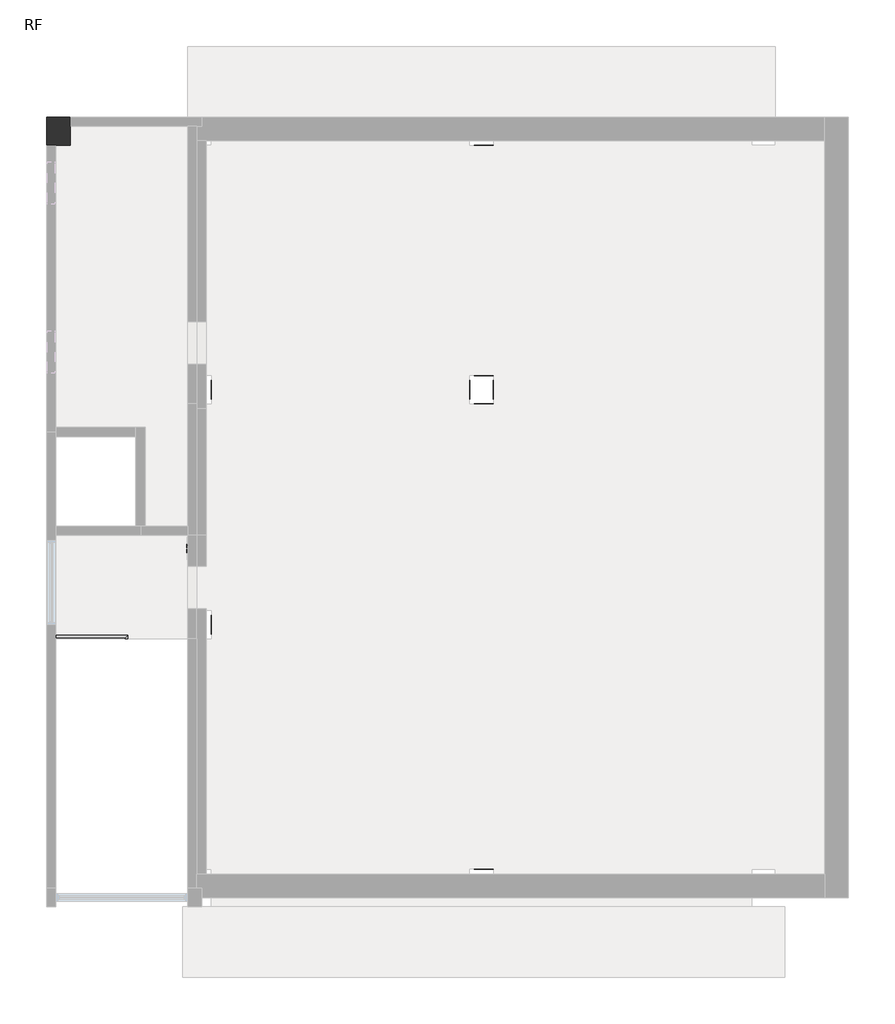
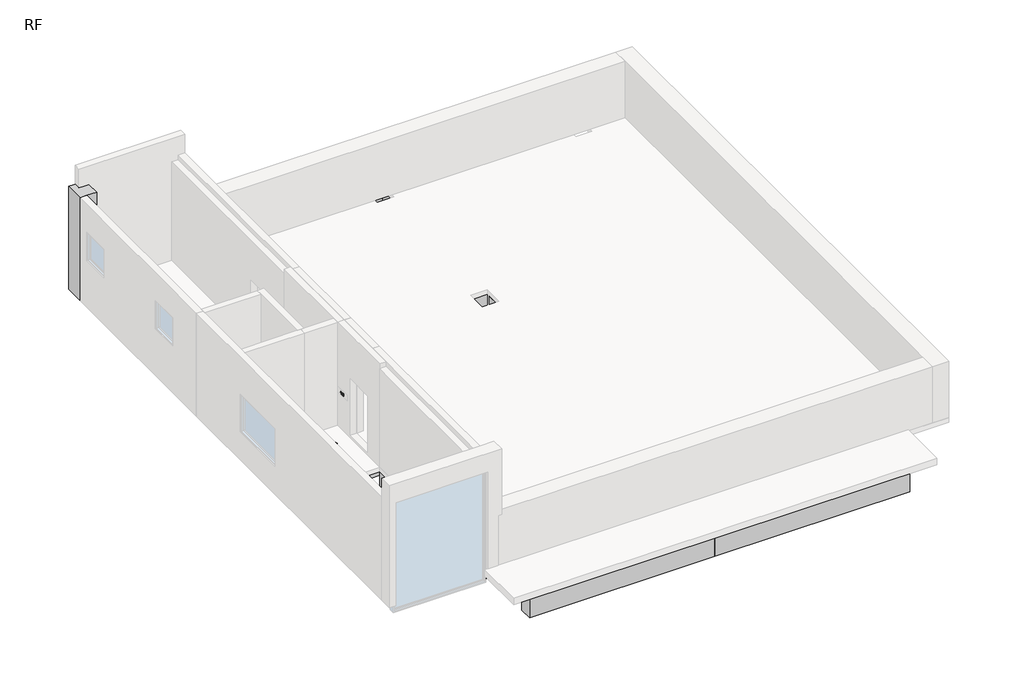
# One storey, part 2 of 2: 31 beams, 1 column, 1 proxy, 1 railing.
"""IFC4 building model written with IfcOpenShell, lengths in millimetres."""

from ifc_helpers import new_model, si_unit, frame, origin, place, context, project, spatial, polyline, outline, extrude, faceted_brep, transform, mapped, element, save
from components import railing_67a96d7a

model = new_model("IFC4")

# Units and contexts
model_context = context("Model", 3, world=origin())
ifc_project = project(units=[si_unit("LENGTHUNIT", "METRE", prefix="MILLI")], contexts=[model_context])

# Site, building, storey
site = spatial("IfcSite", under=ifc_project)
building = spatial("IfcBuilding", under=site)
storey = spatial("IfcBuildingStorey", under=building, Name="RF", Elevation=18600.0)

# Beams
placement = place(None, origin())
element("IfcBeam", 1, ObjectType="BM100-구조 보 : BM100-구조 보 400x600", at=placement, inside=storey, context=model_context, shape_type="Brep", body=[
    faceted_brep([(3250.0, 100.0, 18450.0), (3250.0, -300.0, 18450.0), (8750.0, -300.0, 18450.0), (8750.0, 100.0, 18450.0), (5963.2625647, 100.0, 18450.0), (5663.2625647, 100.0, 18450.0), (3250.0, -300.0, 17850.0), (8750.0, -300.0, 17850.0), (3250.0, 100.0, 17850.0), (5663.2625647, 100.0, 17850.0), (5963.2625647, 100.0, 17850.0), (8750.0, 100.0, 17850.0)], [[[0, 1, 2, 3, 4, 5]], [[1, 6, 7, 2]], [[6, 8, 9, 10, 11, 7]], [[8, 0, 5, 4, 3, 11, 10, 9]], [[0, 8, 6, 1]], [[3, 2, 7, 11]]]),
])
element("IfcBeam", 2, ObjectType="BM100-구조 보 : BM100-구조 보 400x600", at=placement, inside=storey, context=model_context, shape_type="Brep", body=[
    faceted_brep([(14750.0, -300.0, 18450.0), (14750.0, 100.0, 18450.0), (11963.2625647, 100.0, 18450.0), (11663.2625647, 100.0, 18450.0), (9250.0, 100.0, 18450.0), (9250.0, -300.0, 18450.0), (14750.0, -300.0, 17850.0), (9250.0, -300.0, 17850.0), (14750.0, 100.0, 17850.0), (9250.0, 100.0, 17850.0), (11663.2625647, 100.0, 17850.0), (11963.2625647, 100.0, 17850.0)], [[[0, 1, 2, 3, 4, 5]], [[6, 0, 5, 7]], [[8, 6, 7, 9, 10, 11]], [[1, 8, 11, 10, 9, 4, 3, 2]], [[1, 0, 6, 8]], [[5, 4, 9, 7]]]),
])
element("IfcBeam", 3, ObjectType="BM100-구조 보 : BM100-구조 보 400x600", at=placement, inside=storey, context=model_context, shape_type="Brep", body=[
    faceted_brep([(14750.0, 5300.0, 18450.0), (14750.0, 5700.0, 18450.0), (11963.2625647, 5700.0, 18450.0), (11663.2625647, 5700.0, 18450.0), (9250.0, 5700.0, 18450.0), (9250.0, 5300.0, 18450.0), (11663.2625647, 5300.0, 18450.0), (11963.2625647, 5300.0, 18450.0), (14750.0, 5300.0, 17850.0), (9250.0, 5300.0, 17850.0), (11663.2625647, 5300.0, 17850.0), (11963.2625647, 5300.0, 17850.0), (14750.0, 5700.0, 17850.0), (9250.0, 5700.0, 17850.0), (11663.2625647, 5700.0, 17850.0), (11963.2625647, 5700.0, 17850.0)], [[[0, 1, 2, 3, 4, 5, 6, 7]], [[8, 0, 7, 6, 5, 9, 10, 11]], [[12, 8, 11, 10, 9, 13, 14, 15]], [[1, 12, 15, 14, 13, 4, 3, 2]], [[1, 0, 8, 12]], [[5, 4, 13, 9]]]),
])
element("IfcBeam", 4, ObjectType="BM100-구조 보 : BM100-구조 보 400x600", at=placement, inside=storey, context=model_context, shape_type="Brep", body=[
    faceted_brep([(14750.0, 10300.0, 18450.0), (14750.0, 10700.0, 18450.0), (11963.2625647, 10700.0, 18450.0), (11663.2625647, 10700.0, 18450.0), (9250.0, 10700.0, 18450.0), (9250.0, 10300.0, 18450.0), (11663.2625647, 10300.0, 18450.0), (11963.2625647, 10300.0, 18450.0), (14750.0, 10300.0, 17850.0), (9250.0, 10300.0, 17850.0), (11663.2625647, 10300.0, 17850.0), (11963.2625647, 10300.0, 17850.0), (14750.0, 10700.0, 17850.0), (9250.0, 10700.0, 17850.0), (11663.2625647, 10700.0, 17850.0), (11963.2625647, 10700.0, 17850.0)], [[[0, 1, 2, 3, 4, 5, 6, 7]], [[8, 0, 7, 6, 5, 9, 10, 11]], [[12, 8, 11, 10, 9, 13, 14, 15]], [[1, 12, 15, 14, 13, 4, 3, 2]], [[1, 0, 8, 12]], [[5, 4, 13, 9]]]),
])
element("IfcBeam", 5, ObjectType="BM100-구조 보 : BM100-구조 보 400x600", at=placement, inside=storey, context=model_context, shape_type="Brep", body=[
    faceted_brep([(14750.0, 15900.0, 18450.0), (14750.0, 16300.0, 18450.0), (9250.0, 16300.0, 18450.0), (9250.0, 15900.0, 18450.0), (11663.2625647, 15900.0, 18450.0), (11963.2625647, 15900.0, 18450.0), (14750.0, 15900.0, 17850.0), (9250.0, 15900.0, 17850.0), (11663.2625647, 15900.0, 17850.0), (11963.2625647, 15900.0, 17850.0), (14750.0, 16300.0, 17850.0), (9250.0, 16300.0, 17850.0)], [[[0, 1, 2, 3, 4, 5]], [[6, 0, 5, 4, 3, 7, 8, 9]], [[10, 6, 9, 8, 7, 11]], [[1, 10, 11, 2]], [[1, 0, 6, 10]], [[3, 2, 11, 7]]]),
])
element("IfcBeam", 6, ObjectType="BM100-구조 보 : BM100-구조 보 400x600", at=placement, inside=storey, context=model_context, shape_type="SweptSolid", body=[
    extrude(outline(polyline([(15250.0, 5800.0), (14850.0, 5800.0), (14850.0, 10200.0), (15250.0, 10200.0), (15250.0, 5800.0)])), frame((0.0, 0.0, 17850.0), z_axis=(0.0, 0.0, 1.0), x_axis=(1.0, 0.0, 0.0)), (0.0, 0.0, 1.0), 600.0),
])
element("IfcBeam", 7, ObjectType="BM100-구조 보 : BM100-구조 보 400x600", at=placement, inside=storey, context=model_context, shape_type="SweptSolid", body=[
    extrude(outline(polyline([(14850.0, 5200.0), (15250.0, 5200.0), (15250.0, 300.0), (14850.0, 300.0), (14850.0, 5200.0)])), frame((0.0, 0.0, 17850.0), z_axis=(0.0, 0.0, 1.0), x_axis=(1.0, 0.0, 0.0)), (0.0, 0.0, 1.0), 600.0),
])
element("IfcBeam", 8, ObjectType="BM100-구조 보 : BM100-구조 보 300x600", at=placement, inside=storey, context=model_context, shape_type="SweptSolid", body=[
    extrude(outline(polyline([(11663.2625647, 5300.0), (11963.2625647, 5300.0), (11963.2625647, 100.0), (11663.2625647, 100.0), (11663.2625647, 5300.0)])), frame((0.0, 0.0, 17850.0), z_axis=(0.0, 0.0, 1.0), x_axis=(1.0, 0.0, 0.0)), (0.0, 0.0, 1.0), 600.0),
])
element("IfcBeam", 9, ObjectType="BM100-구조 보 : BM100-구조 보 300x600", at=placement, inside=storey, context=model_context, shape_type="SweptSolid", body=[
    extrude(outline(polyline([(11963.2625647, 5700.0), (11663.2625647, 5700.0), (11663.2625647, 10300.0), (11963.2625647, 10300.0), (11963.2625647, 5700.0)])), frame((0.0, 0.0, 17850.0), z_axis=(0.0, 0.0, 1.0), x_axis=(1.0, 0.0, 0.0)), (0.0, 0.0, 1.0), 600.0),
])
element("IfcBeam", 10, ObjectType="BM100-구조 보 : BM100-구조 보 300x600", at=placement, inside=storey, context=model_context, shape_type="SweptSolid", body=[
    extrude(outline(polyline([(11963.2625647, 10700.0), (11663.2625647, 10700.0), (11663.2625647, 15900.0), (11963.2625647, 15900.0), (11963.2625647, 10700.0)])), frame((0.0, 0.0, 17850.0), z_axis=(0.0, 0.0, 1.0), x_axis=(1.0, 0.0, 0.0)), (0.0, 0.0, 1.0), 600.0),
])
element("IfcBeam", 11, ObjectType="BM100-구조 보 : BM100-구조 보 400x600", at=placement, inside=storey, context=model_context, shape_type="SweptSolid", body=[
    extrude(outline(polyline([(9250.0, 300.0), (8850.0, 300.0), (8850.0, 5200.0), (9250.0, 5200.0), (9250.0, 300.0)])), frame((0.0, 0.0, 17850.0), z_axis=(0.0, 0.0, 1.0), x_axis=(1.0, 0.0, 0.0)), (0.0, 0.0, 1.0), 600.0),
])
element("IfcBeam", 12, ObjectType="BM100-구조 보 : BM100-구조 보 400x600", at=placement, inside=storey, context=model_context, shape_type="SweptSolid", body=[
    extrude(outline(polyline([(9250.0, 5800.0), (8850.0, 5800.0), (8850.0, 10200.0), (9250.0, 10200.0), (9250.0, 5800.0)])), frame((0.0, 0.0, 17850.0), z_axis=(0.0, 0.0, 1.0), x_axis=(1.0, 0.0, 0.0)), (0.0, 0.0, 1.0), 600.0),
])
element("IfcBeam", 13, ObjectType="BM100-구조 보 : BM100-구조 보 400x600", at=placement, inside=storey, context=model_context, shape_type="SweptSolid", body=[
    extrude(outline(polyline([(9250.0, 10800.0), (8850.0, 10800.0), (8850.0, 15700.0), (9250.0, 15700.0), (9250.0, 10800.0)])), frame((0.0, 0.0, 17850.0), z_axis=(0.0, 0.0, 1.0), x_axis=(1.0, 0.0, 0.0)), (0.0, 0.0, 1.0), 600.0),
])
element("IfcBeam", 14, ObjectType="BM100-구조 보 : BM100-구조 보 400x600", at=placement, inside=storey, context=model_context, shape_type="Brep", body=[
    faceted_brep([(2750.0, 5800.0, 18450.0), (3150.0, 5800.0, 18450.0), (3150.0, 10200.0, 18450.0), (2750.0, 10200.0, 18450.0), (2750.0, 7600.0, 18450.0), (2750.0, 7400.0, 18450.0), (3150.0, 5800.0, 17850.0), (3150.0, 10200.0, 17850.0), (2750.0, 5800.0, 17850.0), (2750.0, 10200.0, 17850.0)], [[[0, 1, 2, 3, 4, 5]], [[1, 6, 7, 2]], [[6, 8, 9, 7]], [[8, 0, 5, 4, 3, 9]], [[1, 0, 8, 6]], [[3, 2, 7, 9]]]),
])
element("IfcBeam", 15, ObjectType="BM100-구조 보 : BM100-구조 보 400x600", at=placement, inside=storey, context=model_context, shape_type="Brep", body=[
    faceted_brep([(2750.0, 300.0, 18450.0), (3150.0, 300.0, 18450.0), (3150.0, 5200.0, 18450.0), (2750.0, 5200.0, 18450.0), (3150.0, 300.0, 17850.0), (3150.0, 5200.0, 17850.0), (2950.0, 300.0, 17850.0), (2750.0, 300.0, 17850.0), (2750.0, 5200.0, 17850.0), (2950.0, 5200.0, 17850.0)], [[[0, 1, 2, 3]], [[1, 4, 5, 2]], [[4, 6, 7, 8, 9, 5]], [[7, 0, 3, 8]], [[1, 0, 7, 6, 4]], [[3, 2, 5, 9, 8]]]),
])
element("IfcBeam", 16, ObjectType="BM100-구조 보 : BM100-구조 보 400x600", at=placement, inside=storey, context=model_context, shape_type="SweptSolid", body=[
    extrude(outline(polyline([(3150.0, 10800.0), (2750.0, 10800.0), (2750.0, 15700.0), (3150.0, 15700.0), (3150.0, 10800.0)])), frame((0.0, 0.0, 17850.0), z_axis=(0.0, 0.0, 1.0), x_axis=(1.0, 0.0, 0.0)), (0.0, 0.0, 1.0), 600.0),
])
element("IfcBeam", 17, ObjectType="BM100-구조 보 : BM100-구조 보 400x600", at=placement, inside=storey, context=model_context, shape_type="Brep", body=[
    faceted_brep([(8750.0, 5300.0, 18450.0), (8750.0, 5700.0, 18450.0), (5963.2625647, 5700.0, 18450.0), (5663.2625647, 5700.0, 18450.0), (3250.0, 5700.0, 18450.0), (3250.0, 5300.0, 18450.0), (5663.2625647, 5300.0, 18450.0), (5963.2625647, 5300.0, 18450.0), (8750.0, 5300.0, 17850.0), (3250.0, 5300.0, 17850.0), (5663.2625647, 5300.0, 17850.0), (5963.2625647, 5300.0, 17850.0), (8750.0, 5700.0, 17850.0), (3250.0, 5700.0, 17850.0), (5663.2625647, 5700.0, 17850.0), (5963.2625647, 5700.0, 17850.0)], [[[0, 1, 2, 3, 4, 5, 6, 7]], [[8, 0, 7, 6, 5, 9, 10, 11]], [[12, 8, 11, 10, 9, 13, 14, 15]], [[1, 12, 15, 14, 13, 4, 3, 2]], [[1, 0, 8, 12]], [[5, 4, 13, 9]]]),
])
element("IfcBeam", 18, ObjectType="BM100-구조 보 : BM100-구조 보 400x600", at=placement, inside=storey, context=model_context, shape_type="Brep", body=[
    faceted_brep([(8750.0, 10300.0, 18450.0), (8750.0, 10700.0, 18450.0), (5963.2625647, 10700.0, 18450.0), (5663.2625647, 10700.0, 18450.0), (3250.0, 10700.0, 18450.0), (3250.0, 10300.0, 18450.0), (5663.2625647, 10300.0, 18450.0), (5963.2625647, 10300.0, 18450.0), (8750.0, 10300.0, 17850.0), (3250.0, 10300.0, 17850.0), (5663.2625647, 10300.0, 17850.0), (5963.2625647, 10300.0, 17850.0), (8750.0, 10700.0, 17850.0), (3250.0, 10700.0, 17850.0), (5663.2625647, 10700.0, 17850.0), (5963.2625647, 10700.0, 17850.0)], [[[0, 1, 2, 3, 4, 5, 6, 7]], [[8, 0, 7, 6, 5, 9, 10, 11]], [[12, 8, 11, 10, 9, 13, 14, 15]], [[1, 12, 15, 14, 13, 4, 3, 2]], [[1, 0, 8, 12]], [[5, 4, 13, 9]]]),
])
element("IfcBeam", 19, ObjectType="BM100-구조 보 : BM100-구조 보 300x600", at=placement, inside=storey, context=model_context, shape_type="SweptSolid", body=[
    extrude(outline(polyline([(5663.2625647, 5300.0), (5963.2625647, 5300.0), (5963.2625647, 100.0), (5663.2625647, 100.0), (5663.2625647, 5300.0)])), frame((0.0, 0.0, 17850.0), z_axis=(0.0, 0.0, 1.0), x_axis=(1.0, 0.0, 0.0)), (0.0, 0.0, 1.0), 600.0),
])
element("IfcBeam", 20, ObjectType="BM100-구조 보 : BM100-구조 보 300x600", at=placement, inside=storey, context=model_context, shape_type="SweptSolid", body=[
    extrude(outline(polyline([(5963.2625647, 5700.0), (5663.2625647, 5700.0), (5663.2625647, 10300.0), (5963.2625647, 10300.0), (5963.2625647, 5700.0)])), frame((0.0, 0.0, 17850.0), z_axis=(0.0, 0.0, 1.0), x_axis=(1.0, 0.0, 0.0)), (0.0, 0.0, 1.0), 600.0),
])
element("IfcBeam", 21, ObjectType="BM100-구조 보 : BM100-구조 보 300x600", at=placement, inside=storey, context=model_context, shape_type="SweptSolid", body=[
    extrude(outline(polyline([(5963.2625647, 10700.0), (5663.2625647, 10700.0), (5663.2625647, 15900.0), (5963.2625647, 15900.0), (5963.2625647, 10700.0)])), frame((0.0, 0.0, 17850.0), z_axis=(0.0, 0.0, 1.0), x_axis=(1.0, 0.0, 0.0)), (0.0, 0.0, 1.0), 600.0),
])
element("IfcBeam", 22, ObjectType="BM100-구조 보 : BM100-구조 보 400x600", at=placement, inside=storey, context=model_context, shape_type="Brep", body=[
    faceted_brep([(3250.0, 16300.0, 18450.0), (3250.0, 15900.0, 18450.0), (5663.2625647, 15900.0, 18450.0), (5963.2625647, 15900.0, 18450.0), (8750.0, 15900.0, 18450.0), (8750.0, 16300.0, 18450.0), (3250.0, 15900.0, 17850.0), (5663.2625647, 15900.0, 17850.0), (5963.2625647, 15900.0, 17850.0), (8750.0, 15900.0, 17850.0), (3250.0, 16300.0, 17850.0), (8750.0, 16300.0, 17850.0)], [[[0, 1, 2, 3, 4, 5]], [[1, 6, 7, 8, 9, 4, 3, 2]], [[6, 10, 11, 9, 8, 7]], [[10, 0, 5, 11]], [[0, 10, 6, 1]], [[5, 4, 9, 11]]]),
])
element("IfcBeam", 23, ObjectType="BM100-구조 보 : BM100-구조 보 400x600", at=placement, inside=storey, context=model_context, shape_type="SweptSolid", body=[
    extrude(outline(polyline([(15250.0, 10800.0), (14850.0, 10800.0), (14850.0, 15700.0), (15250.0, 15700.0), (15250.0, 10800.0)])), frame((0.0, 0.0, 17850.0), z_axis=(0.0, 0.0, 1.0), x_axis=(1.0, 0.0, 0.0)), (0.0, 0.0, 1.0), 600.0),
])
element("IfcBeam", 24, ObjectType="BM100-구조 보 : BM100-구조 보 400x600", at=placement, inside=storey, context=model_context, shape_type="SweptSolid", body=[
    extrude(outline(polyline([(15250.0, 5300.0), (15250.0, 5700.0), (16600.0, 5700.0), (16600.0, 5300.0), (15250.0, 5300.0)])), frame((0.0, 0.0, 17850.0), z_axis=(0.0, 0.0, 1.0), x_axis=(1.0, 0.0, 0.0)), (0.0, 0.0, 1.0), 600.0),
])
element("IfcBeam", 25, ObjectType="BM100-구조 보 : BM100-구조 보 400x600", at=placement, inside=storey, context=model_context, shape_type="SweptSolid", body=[
    extrude(outline(polyline([(15250.0, 10300.0), (15250.0, 10700.0), (16600.0, 10700.0), (16600.0, 10300.0), (15250.0, 10300.0)])), frame((0.0, 0.0, 17850.0), z_axis=(0.0, 0.0, 1.0), x_axis=(1.0, 0.0, 0.0)), (0.0, 0.0, 1.0), 600.0),
])
element("IfcBeam", 26, ObjectType="BM100-구조 보 : BM100-구조 보 400x600", at=placement, inside=storey, context=model_context, shape_type="Brep", body=[
    faceted_brep([(8850.0, -1400.0, 18450.0), (8850.0, -1800.0, 18450.0), (14750.0, -1800.0, 18450.0), (14750.0, -1400.0, 18450.0), (9250.0, -1400.0, 18450.0), (8850.0, -1800.0, 17850.0), (14750.0, -1800.0, 17850.0), (8850.0, -1400.0, 17850.0), (9250.0, -1400.0, 17850.0), (14750.0, -1400.0, 17850.0)], [[[0, 1, 2, 3, 4]], [[1, 5, 6, 2]], [[5, 7, 8, 9, 6]], [[7, 0, 4, 3, 9, 8]], [[1, 0, 7, 5]], [[3, 2, 6, 9]]]),
])
element("IfcBeam", 27, ObjectType="BM100-구조 보 : BM100-구조 보 400x600", at=placement, inside=storey, context=model_context, shape_type="Brep", body=[
    faceted_brep([(8850.0, 17800.0, 18450.0), (8850.0, 17400.0, 18450.0), (9250.0, 17400.0, 18450.0), (14750.0, 17400.0, 18450.0), (14750.0, 17800.0, 18450.0), (8850.0, 17400.0, 17850.0), (9250.0, 17400.0, 17850.0), (14750.0, 17400.0, 17850.0), (8850.0, 17800.0, 17850.0), (14750.0, 17800.0, 17850.0)], [[[0, 1, 2, 3, 4]], [[1, 5, 6, 7, 3, 2]], [[5, 8, 9, 7, 6]], [[8, 0, 4, 9]], [[1, 0, 8, 5]], [[4, 3, 7, 9]]]),
])
element("IfcBeam", 28, ObjectType="BM100-구조 보 : BM100-구조 보 400x600", at=placement, inside=storey, context=model_context, shape_type="SweptSolid", body=[
    extrude(outline(polyline([(8850.0, -300.0), (9250.0, -300.0), (9250.0, -1400.0), (8850.0, -1400.0), (8850.0, -300.0)])), frame((0.0, 0.0, 17850.0), z_axis=(0.0, 0.0, 1.0), x_axis=(1.0, 0.0, 0.0)), (0.0, 0.0, 1.0), 600.0),
])
element("IfcBeam", 29, ObjectType="BM100-구조 보 : BM100-구조 보 400x600", at=placement, inside=storey, context=model_context, shape_type="SweptSolid", body=[
    extrude(outline(polyline([(9250.0, 16300.0), (8850.0, 16300.0), (8850.0, 17400.0), (9250.0, 17400.0), (9250.0, 16300.0)])), frame((0.0, 0.0, 17850.0), z_axis=(0.0, 0.0, 1.0), x_axis=(1.0, 0.0, 0.0)), (0.0, 0.0, 1.0), 600.0),
])
element("IfcBeam", 30, ObjectType="BM100-구조 보 : BM100-구조 보 400x600", at=placement, inside=storey, context=model_context, shape_type="SweptSolid", body=[
    extrude(outline(polyline([(8850.0, -1400.0), (8850.0, -1800.0), (3249.5, -1800.0), (3249.5, -1400.0), (8850.0, -1400.0)])), frame((0.0, 0.0, 17850.0), z_axis=(0.0, 0.0, 1.0), x_axis=(1.0, 0.0, 0.0)), (0.0, 0.0, 1.0), 600.0),
])
element("IfcBeam", 31, ObjectType="BM100-구조 보 : BM100-구조 보 400x600", at=placement, inside=storey, context=model_context, shape_type="SweptSolid", body=[
    extrude(outline(polyline([(2937.3, 17400.0), (2937.3, 17800.0), (8850.0, 17800.0), (8850.0, 17400.0), (2937.3, 17400.0)])), frame((0.0, 0.0, 17850.0), z_axis=(0.0, 0.0, 1.0), x_axis=(1.0, 0.0, 0.0)), (0.0, 0.0, 1.0), 600.0),
])

# Proxy
element("IfcBuildingElementProxy", 32, Name="600 mm Arial", ObjectType="600 mm Arial", at=placement, inside=storey, context=model_context, shape_type="SweptSolid", body=[
    extrude(outline(polyline([(7139.398477, 19776.3183875), (7140.6780084, 19782.1456508), (7173.0362773, 19782.1456508), (7173.0362773, 19791.0252901), (7163.9022734, 19792.6131423), (7156.903391, 19795.7811386), (7152.4404473, 19800.2440823), (7150.8988432, 19805.7784408), (7152.8258483, 19811.8754849), (7158.3139587, 19816.5850852), (7166.8544451, 19819.5835051), (7178.0156584, 19820.6240878), (7189.1383316, 19819.5835051), (7197.7636063, 19816.5850852), (7203.3442129, 19811.8754849), (7205.3174661, 19805.7784408), (7203.7296139, 19800.2440823), (7199.2666702, 19795.7811386), (7192.2292477, 19792.6131423), (7182.9179593, 19791.0252901), (7182.9179593, 19782.1456508), (7216.5557596, 19781.066528), (7215.3533084, 19775.2392647), (7139.398477, 19776.3183875)]), holes=[polyline([(7178.0156584, 19813.7177017), (7171.1940605, 19813.1318922), (7165.8678185, 19811.4592518), (7162.4377495, 19808.9310211), (7161.1967583, 19805.8709371), (7162.4377495, 19802.803145), (7165.8678185, 19800.2749144), (7171.1940605, 19798.5637339), (7178.0156584, 19797.9316762), (7184.9297526, 19798.5637339), (7190.2945347, 19800.2749144), (7193.7708518, 19802.803145), (7195.0195511, 19805.8709371), (7193.7708518, 19808.9310211), (7190.2945347, 19811.4592518), (7184.9297526, 19813.1318922), (7178.0156584, 19813.7177017)])]), frame((2730.0, 0.0, 0.0), z_axis=(1.0, 0.0, 0.0), x_axis=(0.0, 1.0, 0.0)), (0.0, 0.0, 1.0), 10.0),
    extrude(outline(polyline([(7151.6696452, 19742.8655797), (7151.6696452, 19763.5076579), (7152.8720964, 19768.0168497), (7157.3273321, 19769.3195051), (7205.9957719, 19768.4562069), (7204.7933207, 19762.413119), (7161.5359111, 19760.9794272), (7160.2563798, 19741.6939606), (7151.6696452, 19742.8655797)])), frame((2730.0, 0.0, 0.0), z_axis=(1.0, 0.0, 0.0), x_axis=(0.0, 1.0, 0.0)), (0.0, 0.0, 1.0), 10.0),
    extrude(outline(polyline([(7045.5456226, 19757.5262342), (7047.4726277, 19763.954723), (7052.8759499, 19768.895564), (7061.0772834, 19772.1098085), (7071.3829065, 19773.2660115), (7081.9351862, 19772.1098085), (7090.0054834, 19768.8570239), (7095.1544409, 19763.8699348), (7096.9581176, 19757.5262342), (7095.1544409, 19751.0900373), (7090.0054834, 19746.1029482), (7081.9351862, 19742.8501636), (7071.3829065, 19741.6939606), (7061.0772834, 19742.8501636), (7052.8759499, 19746.1029482), (7047.4726277, 19751.1285774), (7045.5456226, 19757.5262342)]), holes=[polyline([(7055.6739612, 19757.2641615), (7056.9612006, 19753.5488957), (7060.3912696, 19750.8587967), (7065.3706507, 19749.1784482), (7071.3829065, 19748.6003467), (7077.5570307, 19749.1784482), (7082.4053754, 19750.8587967), (7085.5810797, 19753.5488957), (7086.7372828, 19757.2641615), (7082.4901636, 19764.0163872), (7071.3829065, 19766.3596254), (7065.3706507, 19765.7429837), (7060.3912696, 19763.9778471), (7056.9612006, 19761.1490037), (7055.6739612, 19757.2641615)])]), frame((2730.0, 0.0, 0.0), z_axis=(1.0, 0.0, 0.0), x_axis=(0.0, 1.0, 0.0)), (0.0, 0.0, 1.0), 10.0),
    extrude(outline(polyline([(7104.2499047, 19776.2258913), (7093.697625, 19784.8049178), (7086.3056336, 19794.7559719), (7078.6284455, 19785.6528), (7068.8855079, 19779.185771), (7066.5731018, 19779.8178287), (7063.5669739, 19784.1805681), (7064.0757033, 19786.0921572), (7069.0165442, 19788.7976723), (7074.1655018, 19792.8366749), (7078.8905182, 19797.8931361), (7082.4516235, 19803.7126914), (7081.1566761, 19817.0167343), (7082.2820471, 19818.3116817), (7091.1154383, 19817.1863108), (7092.3178894, 19805.0461789), (7095.8789948, 19796.0123792), (7101.8450024, 19789.1522412), (7111.2487871, 19782.0223225), (7110.6013134, 19780.4961345), (7105.9610852, 19775.7017459), (7104.2499047, 19776.2258913)])), frame((2730.0, 0.0, 0.0), z_axis=(1.0, 0.0, 0.0), x_axis=(0.0, 1.0, 0.0)), (0.0, 0.0, 1.0), 10.0),
    extrude(outline(polyline([(7033.5211111, 19793.9389218), (7034.7235622, 19799.9049294), (7046.3935049, 19799.9049294), (7047.5188758, 19820.6240878), (7056.2751868, 19819.544965), (7055.1498158, 19774.2526381), (7046.3935049, 19775.4859213), (7046.3935049, 19792.9985433), (7033.5211111, 19793.9389218)])), frame((2730.0, 0.0, 0.0), z_axis=(1.0, 0.0, 0.0), x_axis=(0.0, 1.0, 0.0)), (0.0, 0.0, 1.0), 10.0),
])

# Column
element("IfcColumn", 33, ObjectType="CL100-구조 기둥 : CL100-구조 기둥_500x600", at=placement, inside=storey, context=model_context, shape_type="Brep", body=[
    faceted_brep([(-250.0, 15700.0, 18600.0), (-250.0, 16300.0, 18600.0), (-50.0, 16300.0, 18600.0), (250.0, 16300.0, 18600.0), (250.0, 16100.0, 18600.0), (250.0, 15700.0, 18600.0), (-50.0, 15700.0, 18600.0), (-250.0, 15700.0, 21900.0), (-250.0, 16300.0, 21900.0), (-50.0, 16300.0, 21900.0), (250.0, 16300.0, 21900.0), (250.0, 16100.0, 21900.0), (250.0, 15700.0, 21900.0), (-50.0, 15700.0, 21900.0)], [[[0, 1, 2, 3, 4, 5, 6]], [[7, 8, 1, 0]], [[8, 9, 10, 3, 2, 1]], [[10, 11, 12, 5, 4, 3]], [[12, 13, 7, 0, 6, 5]], [[7, 13, 12, 11, 10, 9, 8]]]),
])

# Railing
railing_shape = railing_67a96d7a(model_context)
element("IfcRailing", 34, ObjectType="RL780-금속재 난간", at=placement, inside=storey, context=model_context, shape_type="MappedRepresentation", body=[
    mapped(railing_shape, transform((0.0, 0.0, 0.0), x_axis=(1.0, 0.0, 0.0), y_axis=(0.0, 1.0, 0.0), z_axis=(0.0, 0.0, 1.0))),
])

save(model, "model.ifc")
